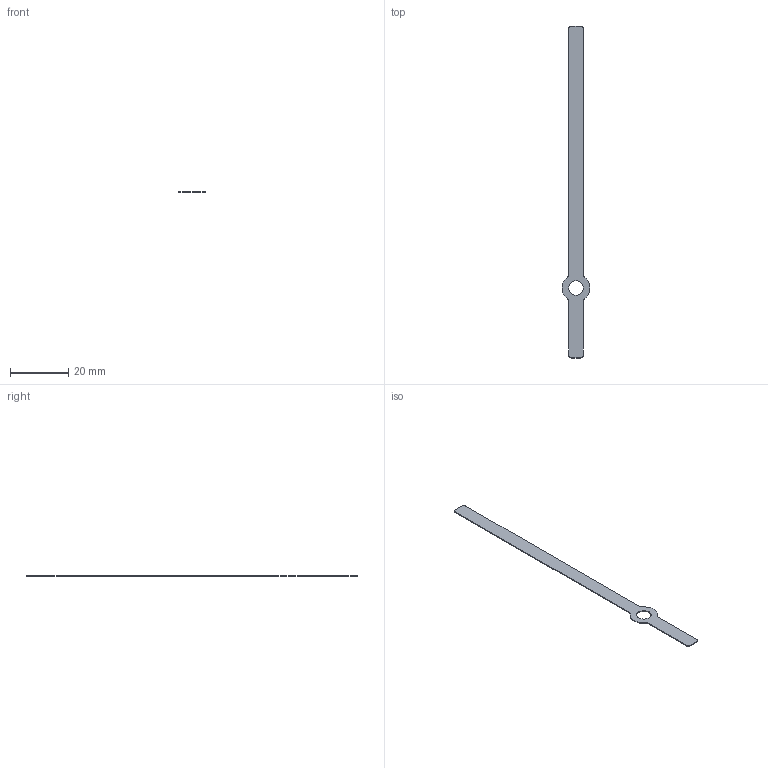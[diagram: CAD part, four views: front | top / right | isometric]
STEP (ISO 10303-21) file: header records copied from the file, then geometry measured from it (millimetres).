
FILE_DESCRIPTION (( 'STEP AP203' ), '1' );
FILE_NAME ('Hour Hand.STEP', '2024-12-16T12:09:23', ( '' ), ( '' ), 'SwSTEP 2.0', 'SolidWorks 2018', '' );
FILE_SCHEMA (( 'CONFIG_CONTROL_DESIGN' ));
Length unit declared in the file: millimetre
Products named in the file (1): Hour Hand
Bounding box: 9.48 x 114.04 x 0.3 mm (x, y, z)
Volume: 172.7 mm3; surface area: 1227.5 mm2
Topology: 1 solids, 1 shells, 21 faces, 57 edges, 38 vertices
Faces by surface type: cylinder 13, plane 8
Entity records: 758 total; most frequent: DIRECTION 127, CARTESIAN_POINT 117, ORIENTED_EDGE 114, EDGE_CURVE 57, AXIS2_PLACEMENT_3D 48, VERTEX_POINT 38, LINE 31, VECTOR 31
